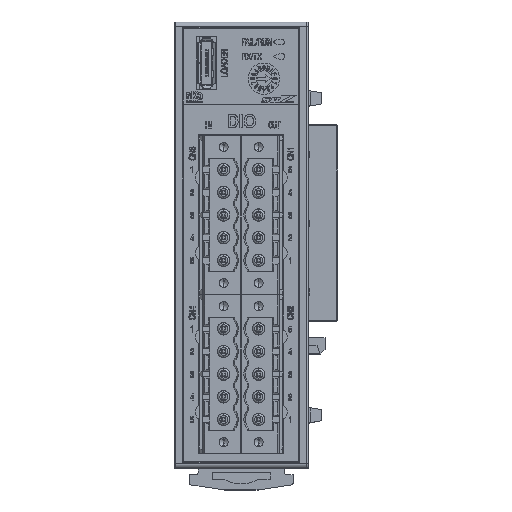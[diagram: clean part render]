
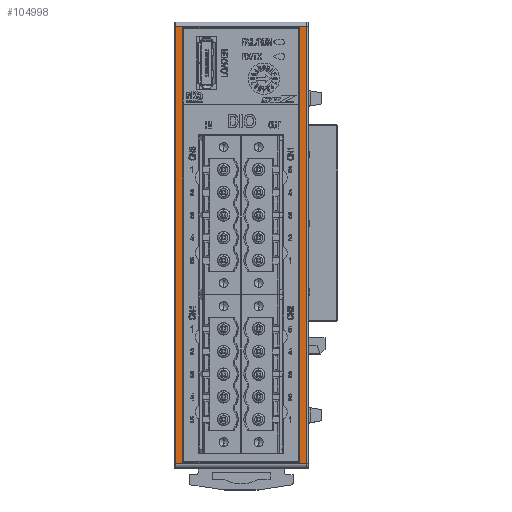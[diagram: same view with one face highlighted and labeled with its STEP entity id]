
A CAD part, top view. The second image highlights one B-rep face of the part: STEP entity #104998.
In plain terms, the highlighted planar face has unit normal (0, 0, 1).
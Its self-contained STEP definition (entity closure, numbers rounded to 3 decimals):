
#1182 = CARTESIAN_POINT ( 'NONE',  ( -13.05, -48.7, 75.35 ) ) ;
#6935 = DIRECTION ( 'NONE',  ( -1., 0., 0. ) ) ;
#10809 = ORIENTED_EDGE ( 'NONE', *, *, #39339, .T. ) ;
#12443 = LINE ( 'NONE', #68232, #113678 ) ;
#12725 = LINE ( 'NONE', #52147, #18438 ) ;
#14423 = DIRECTION ( 'NONE',  ( -1., 0., 0. ) ) ;
#16785 = EDGE_LOOP ( 'NONE', ( #110708, #32199, #25436, #19194 ) ) ;
#18438 = VECTOR ( 'NONE', #14423, 1000. ) ;
#19194 = ORIENTED_EDGE ( 'NONE', *, *, #25022, .T. ) ;
#21531 = CARTESIAN_POINT ( 'NONE',  ( -14.75, 49., 75.35 ) ) ;
#22781 = VERTEX_POINT ( 'NONE', #51456 ) ;
#22896 = ORIENTED_EDGE ( 'NONE', *, *, #75158, .T. ) ;
#25022 = EDGE_CURVE ( 'NONE', #22781, #57368, #100963, .T. ) ;
#25436 = ORIENTED_EDGE ( 'NONE', *, *, #157394, .T. ) ;
#28513 = VERTEX_POINT ( 'NONE', #135096 ) ;
#31416 = CARTESIAN_POINT ( 'NONE',  ( -15., -50., 75.35 ) ) ;
#32199 = ORIENTED_EDGE ( 'NONE', *, *, #37270, .T. ) ;
#34570 = LINE ( 'NONE', #107561, #90123 ) ;
#37270 = EDGE_CURVE ( 'NONE', #156194, #111423, #34570, .T. ) ;
#39339 = EDGE_CURVE ( 'NONE', #28513, #65883, #79068, .T. ) ;
#45467 = FACE_OUTER_BOUND ( 'NONE', #114217, .T. ) ;
#46018 = CARTESIAN_POINT ( 'NONE',  ( 13.05, 48.7, 75.35 ) ) ;
#49250 = VECTOR ( 'NONE', #106108, 1000. ) ;
#51456 = CARTESIAN_POINT ( 'NONE',  ( -13.05, -48.7, 75.35 ) ) ;
#52147 = CARTESIAN_POINT ( 'NONE',  ( 13.05, -48.7, 75.35 ) ) ;
#57368 = VERTEX_POINT ( 'NONE', #120585 ) ;
#62308 = VECTOR ( 'NONE', #132690, 1000. ) ;
#62891 = CARTESIAN_POINT ( 'NONE',  ( 14.75, -49., 75.35 ) ) ;
#62998 = LINE ( 'NONE', #78010, #142434 ) ;
#65883 = VERTEX_POINT ( 'NONE', #62891 ) ;
#67451 = EDGE_CURVE ( 'NONE', #65883, #124113, #152272, .T. ) ;
#68228 = DIRECTION ( 'NONE',  ( 0., -1., 0. ) ) ;
#68232 = CARTESIAN_POINT ( 'NONE',  ( -14.75, -49., 75.35 ) ) ;
#68433 = ORIENTED_EDGE ( 'NONE', *, *, #121366, .T. ) ;
#72210 = LINE ( 'NONE', #157037, #62308 ) ;
#72747 = ORIENTED_EDGE ( 'NONE', *, *, #67451, .T. ) ;
#75158 = EDGE_CURVE ( 'NONE', #89082, #28513, #12443, .T. ) ;
#78010 = CARTESIAN_POINT ( 'NONE',  ( -15., 49., 75.35 ) ) ;
#79068 = LINE ( 'NONE', #142218, #49250 ) ;
#84833 = VECTOR ( 'NONE', #135189, 1000. ) ;
#89082 = VERTEX_POINT ( 'NONE', #21531 ) ;
#90123 = VECTOR ( 'NONE', #68228, 1000. ) ;
#92357 = CARTESIAN_POINT ( 'NONE',  ( 14.75, 49., 75.35 ) ) ;
#97014 = DIRECTION ( 'NONE',  ( 0., -1., 0. ) ) ;
#100963 = LINE ( 'NONE', #1182, #140607 ) ;
#101654 = EDGE_CURVE ( 'NONE', #57368, #156194, #72210, .T. ) ;
#104998 = ADVANCED_FACE ( 'NONE', ( #45467, #134802 ), #120720, .T. ) ;
#106108 = DIRECTION ( 'NONE',  ( 1., 0., 0. ) ) ;
#107561 = CARTESIAN_POINT ( 'NONE',  ( 13.05, 48.7, 75.35 ) ) ;
#109646 = CARTESIAN_POINT ( 'NONE',  ( 14.75, 49., 75.35 ) ) ;
#110708 = ORIENTED_EDGE ( 'NONE', *, *, #101654, .T. ) ;
#111423 = VERTEX_POINT ( 'NONE', #131370 ) ;
#113678 = VECTOR ( 'NONE', #97014, 1000. ) ;
#114217 = EDGE_LOOP ( 'NONE', ( #68433, #22896, #10809, #72747 ) ) ;
#120585 = CARTESIAN_POINT ( 'NONE',  ( -13.05, 48.7, 75.35 ) ) ;
#120720 = PLANE ( 'NONE',  #149378 ) ;
#121366 = EDGE_CURVE ( 'NONE', #124113, #89082, #62998, .T. ) ;
#124113 = VERTEX_POINT ( 'NONE', #92357 ) ;
#131370 = CARTESIAN_POINT ( 'NONE',  ( 13.05, -48.7, 75.35 ) ) ;
#132690 = DIRECTION ( 'NONE',  ( 1., 0., 0. ) ) ;
#134802 = FACE_BOUND ( 'NONE', #16785, .T. ) ;
#135096 = CARTESIAN_POINT ( 'NONE',  ( -14.75, -49., 75.35 ) ) ;
#135189 = DIRECTION ( 'NONE',  ( 0., 1., 0. ) ) ;
#140607 = VECTOR ( 'NONE', #148954, 1000. ) ;
#142218 = CARTESIAN_POINT ( 'NONE',  ( 15., -49., 75.35 ) ) ;
#142434 = VECTOR ( 'NONE', #6935, 1000. ) ;
#144032 = DIRECTION ( 'NONE',  ( 0., 0., 1. ) ) ;
#148954 = DIRECTION ( 'NONE',  ( 0., 1., 0. ) ) ;
#149378 = AXIS2_PLACEMENT_3D ( 'NONE', #31416, #144032, #157248 ) ;
#152272 = LINE ( 'NONE', #109646, #84833 ) ;
#156194 = VERTEX_POINT ( 'NONE', #46018 ) ;
#157037 = CARTESIAN_POINT ( 'NONE',  ( -13.05, 48.7, 75.35 ) ) ;
#157248 = DIRECTION ( 'NONE',  ( 1., 0., 0. ) ) ;
#157394 = EDGE_CURVE ( 'NONE', #111423, #22781, #12725, .T. ) ;
